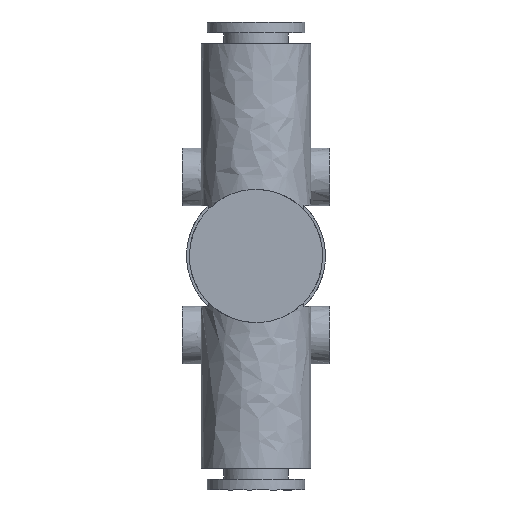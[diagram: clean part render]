
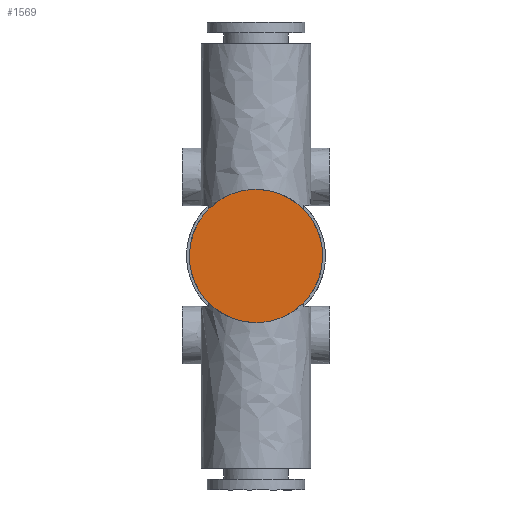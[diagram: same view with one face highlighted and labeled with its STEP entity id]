
A CAD part, front view. The second image highlights one B-rep face of the part: STEP entity #1569.
In plain terms, the highlighted planar face has unit normal (0, -1, 0).
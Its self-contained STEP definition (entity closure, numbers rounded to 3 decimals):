
#353 = CARTESIAN_POINT ( 'NONE',  ( -9.361, -8.2, 9.361 ) ) ;
#398 = EDGE_LOOP ( 'NONE', ( #2167, #3110 ) ) ;
#595 = FACE_OUTER_BOUND ( 'NONE', #398, .T. ) ;
#622 = EDGE_CURVE ( 'NONE', #3325, #3004, #2581, .T. ) ;
#676 = DIRECTION ( 'NONE',  ( 0., -1., 0. ) ) ;
#728 = CARTESIAN_POINT ( 'NONE',  ( 18.5, -8.2, 9.25 ) ) ;
#751 = CARTESIAN_POINT ( 'NONE',  ( -18.5, -8.2, 9.25 ) ) ;
#1569 = ADVANCED_FACE ( 'NONE', ( #595 ), #2966, .T. ) ;
#1628 = CARTESIAN_POINT ( 'NONE',  ( 0., -8.2, 9.25 ) ) ;
#2132 = CARTESIAN_POINT ( 'NONE',  ( 0., -8.2, 9.25 ) ) ;
#2167 = ORIENTED_EDGE ( 'NONE', *, *, #2769, .F. ) ;
#2174 = CARTESIAN_POINT ( 'NONE',  ( 18.5, -8.2, -9.25 ) ) ;
#2318 = CARTESIAN_POINT ( 'NONE',  ( 0., -8.2, -9.25 ) ) ;
#2384 = DIRECTION ( 'NONE',  ( 0., 0., -1. ) ) ;
#2565 = AXIS2_PLACEMENT_3D ( 'NONE', #353, #676, #2384 ) ;
#2581 =( BOUNDED_CURVE ( )  B_SPLINE_CURVE ( 3, ( #3345, #3323, #751, #1628 ),
 .UNSPECIFIED., .F., .T. ) 
 B_SPLINE_CURVE_WITH_KNOTS ( ( 4, 4 ),
 ( 0.5, 1. ),
 .UNSPECIFIED. ) 
 CURVE ( )  GEOMETRIC_REPRESENTATION_ITEM ( )  RATIONAL_B_SPLINE_CURVE ( ( 1., 0.333, 0.333, 1. ) ) 
 REPRESENTATION_ITEM ( '' )  );
#2694 = CARTESIAN_POINT ( 'NONE',  ( 0., -8.2, 9.25 ) ) ;
#2769 = EDGE_CURVE ( 'NONE', #3004, #3325, #3431, .T. ) ;
#2966 = PLANE ( 'NONE',  #2565 ) ;
#3004 = VERTEX_POINT ( 'NONE', #2132 ) ;
#3110 = ORIENTED_EDGE ( 'NONE', *, *, #622, .F. ) ;
#3323 = CARTESIAN_POINT ( 'NONE',  ( -18.5, -8.2, -9.25 ) ) ;
#3325 = VERTEX_POINT ( 'NONE', #2318 ) ;
#3345 = CARTESIAN_POINT ( 'NONE',  ( 0., -8.2, -9.25 ) ) ;
#3431 =( BOUNDED_CURVE ( )  B_SPLINE_CURVE ( 3, ( #2694, #728, #2174, #3587 ),
 .UNSPECIFIED., .F., .T. ) 
 B_SPLINE_CURVE_WITH_KNOTS ( ( 4, 4 ),
 ( 0., 0.5 ),
 .UNSPECIFIED. ) 
 CURVE ( )  GEOMETRIC_REPRESENTATION_ITEM ( )  RATIONAL_B_SPLINE_CURVE ( ( 1., 0.333, 0.333, 1. ) ) 
 REPRESENTATION_ITEM ( '' )  );
#3587 = CARTESIAN_POINT ( 'NONE',  ( 0., -8.2, -9.25 ) ) ;
